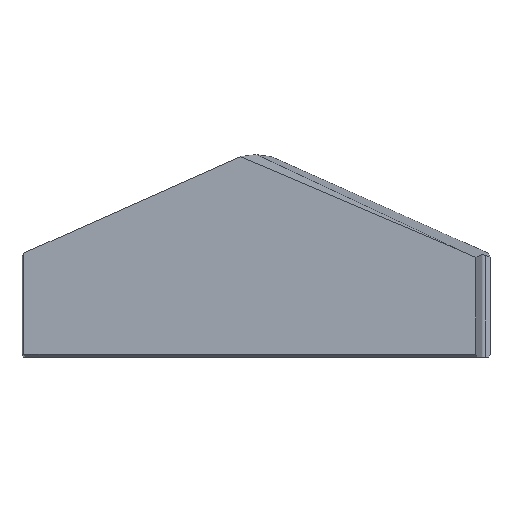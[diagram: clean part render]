
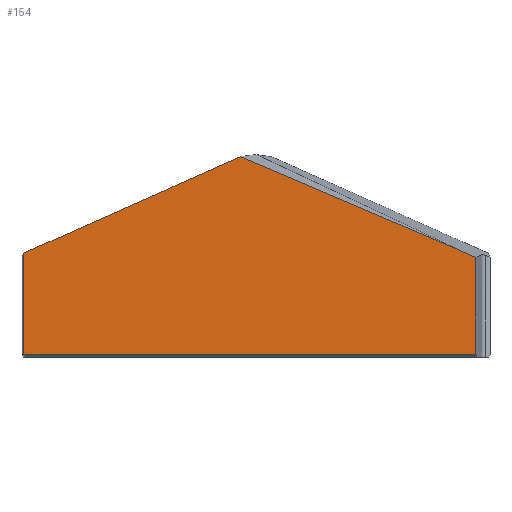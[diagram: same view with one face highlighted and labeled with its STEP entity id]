
A CAD part, top view. The second image highlights one B-rep face of the part: STEP entity #154.
In plain terms, the highlighted planar face has unit normal (0, 0, 1).
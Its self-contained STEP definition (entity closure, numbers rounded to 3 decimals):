
#5 = VERTEX_POINT ( 'NONE', #409 ) ;
#6 = CARTESIAN_POINT ( 'NONE',  ( -23.599, 0.3, 6.4 ) ) ;
#14 = ORIENTED_EDGE ( 'NONE', *, *, #264, .T. ) ;
#19 = LINE ( 'NONE', #257, #512 ) ;
#48 = VECTOR ( 'NONE', #474, 1000. ) ;
#52 = CARTESIAN_POINT ( 'NONE',  ( -23.595, 0.292, 6.4 ) ) ;
#57 = CARTESIAN_POINT ( 'NONE',  ( 7.131, 16.686, 6.4 ) ) ;
#58 = DIRECTION ( 'NONE',  ( -0.92, 0.393, 0. ) ) ;
#64 = VECTOR ( 'NONE', #58, 1000. ) ;
#66 = VERTEX_POINT ( 'NONE', #463 ) ;
#73 = CARTESIAN_POINT ( 'NONE',  ( 0., 21.09, 6.4 ) ) ;
#81 = VERTEX_POINT ( 'NONE', #465 ) ;
#95 = DIRECTION ( 'NONE',  ( -0.914, 0.407, 0. ) ) ;
#98 = EDGE_CURVE ( 'NONE', #5, #242, #399, .T. ) ;
#100 = CARTESIAN_POINT ( 'NONE',  ( 23.424, 0.289, 6.4 ) ) ;
#129 = VECTOR ( 'NONE', #95, 1000. ) ;
#151 = CARTESIAN_POINT ( 'NONE',  ( -23.592, 0.289, 6.4 ) ) ;
#154 = ADVANCED_FACE ( 'NONE', ( #537 ), #179, .T. ) ;
#155 = LINE ( 'NONE', #73, #48 ) ;
#175 = LINE ( 'NONE', #435, #129 ) ;
#179 = PLANE ( 'NONE',  #585 ) ;
#197 = LINE ( 'NONE', #100, #442 ) ;
#201 = CARTESIAN_POINT ( 'NONE',  ( 20.822, 10.835, 6.4 ) ) ;
#210 = CARTESIAN_POINT ( 'NONE',  ( -23.597, 0.296, 6.4 ) ) ;
#215 = DIRECTION ( 'NONE',  ( 0., 1., 0. ) ) ;
#242 = VERTEX_POINT ( 'NONE', #569 ) ;
#257 = CARTESIAN_POINT ( 'NONE',  ( 22.365, 0., 6.4 ) ) ;
#264 = EDGE_CURVE ( 'NONE', #66, #242, #155, .T. ) ;
#286 = ORIENTED_EDGE ( 'NONE', *, *, #579, .T. ) ;
#302 = ORIENTED_EDGE ( 'NONE', *, *, #590, .T. ) ;
#310 = CARTESIAN_POINT ( 'NONE',  ( -23.592, 0.289, 6.4 ) ) ;
#338 = LINE ( 'NONE', #57, #64 ) ;
#356 = VERTEX_POINT ( 'NONE', #392 ) ;
#380 = DIRECTION ( 'NONE',  ( 0., 0., 1. ) ) ;
#381 = VECTOR ( 'NONE', #215, 1000. ) ;
#389 = EDGE_LOOP ( 'NONE', ( #440, #583, #14, #619, #485, #286, #302 ) ) ;
#392 = CARTESIAN_POINT ( 'NONE',  ( 22.365, 10.148, 6.4 ) ) ;
#397 = EDGE_CURVE ( 'NONE', #356, #404, #175, .T. ) ;
#399 = LINE ( 'NONE', #507, #381 ) ;
#404 = VERTEX_POINT ( 'NONE', #201 ) ;
#408 = DIRECTION ( 'NONE',  ( 0., 1., 0. ) ) ;
#409 = CARTESIAN_POINT ( 'NONE',  ( -23.599, 0.3, 6.4 ) ) ;
#435 = CARTESIAN_POINT ( 'NONE',  ( 7.471, 16.779, 6.4 ) ) ;
#440 = ORIENTED_EDGE ( 'NONE', *, *, #397, .T. ) ;
#442 = VECTOR ( 'NONE', #599, 1000. ) ;
#463 = CARTESIAN_POINT ( 'NONE',  ( -1.554, 20.398, 6.4 ) ) ;
#465 = CARTESIAN_POINT ( 'NONE',  ( 22.365, 0.289, 6.4 ) ) ;
#474 = DIRECTION ( 'NONE',  ( -0.914, -0.407, 0. ) ) ;
#485 = ORIENTED_EDGE ( 'NONE', *, *, #560, .T. ) ;
#507 = CARTESIAN_POINT ( 'NONE',  ( -23.599, 0., 6.4 ) ) ;
#512 = VECTOR ( 'NONE', #408, 1000. ) ;
#518 = CARTESIAN_POINT ( 'NONE',  ( 0., 0., 6.4 ) ) ;
#530 = EDGE_CURVE ( 'NONE', #404, #66, #338, .T. ) ;
#537 = FACE_OUTER_BOUND ( 'NONE', #389, .T. ) ;
#556 = VERTEX_POINT ( 'NONE', #310 ) ;
#560 = EDGE_CURVE ( 'NONE', #5, #556, #580, .T. ) ;
#566 = DIRECTION ( 'NONE',  ( 1., 0., 0. ) ) ;
#569 = CARTESIAN_POINT ( 'NONE',  ( -23.599, 10.583, 6.4 ) ) ;
#579 = EDGE_CURVE ( 'NONE', #556, #81, #197, .T. ) ;
#580 = B_SPLINE_CURVE_WITH_KNOTS ( 'NONE', 3,
 ( #6, #210, #52, #151 ),
 .UNSPECIFIED., .F., .F.,
 ( 4, 4 ),
 ( 0., 0. ),
 .UNSPECIFIED. ) ;
#583 = ORIENTED_EDGE ( 'NONE', *, *, #530, .T. ) ;
#585 = AXIS2_PLACEMENT_3D ( 'NONE', #518, #380, #566 ) ;
#590 = EDGE_CURVE ( 'NONE', #81, #356, #19, .T. ) ;
#599 = DIRECTION ( 'NONE',  ( 1., 0., 0. ) ) ;
#619 = ORIENTED_EDGE ( 'NONE', *, *, #98, .F. ) ;
